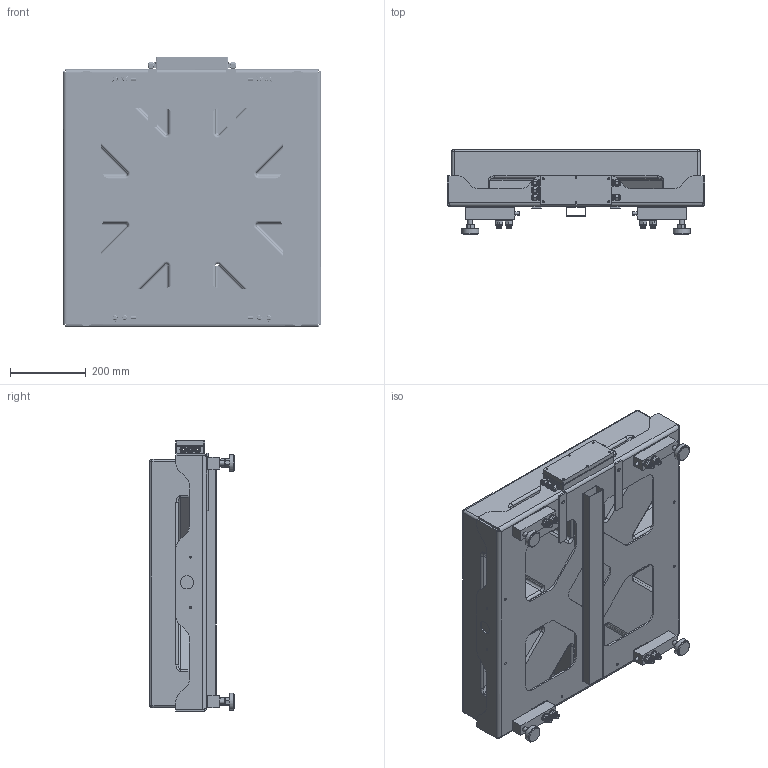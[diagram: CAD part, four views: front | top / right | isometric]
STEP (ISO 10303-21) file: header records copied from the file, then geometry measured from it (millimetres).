
FILE_DESCRIPTION (( 'STEP AP214' ), '1' );
FILE_NAME ('4042-26.STEP', '2022-01-07T17:55:42', ( '' ), ( '' ), 'SwSTEP 2.0', 'SolidWorks 2019', '' );
FILE_SCHEMA (( 'AUTOMOTIVE_DESIGN' ));
Length unit declared in the file: inch
Products named in the file (1): 4042-26
Bounding box: 682.62 x 224.45 x 716.15 mm (x, y, z)
Surface area: 3801550 mm2 (no closed solid volume)
Topology: 0 solids, 123 shells, 1254 faces, 5278 edges, 4060 vertices
Faces by surface type: plane 807, cylinder 282, cone 72, bspline 57, torus 20, sphere 16
Full cylindrical faces by diameter (mm): 5.105 x12, 6.629 x6, 6.731 x4, 7.938 x4, 9.525 x2, 12.268 x4, 12.667 x4, 15.85 x1, 20.65 x8, 34.925 x3, 35.052 x1, 37.973 x4, 44.45 x4
Entity records: 123232 total; most frequent: CARTESIAN_POINT 66162, DIRECTION 7707, ORIENTED_EDGE 7277, EDGE_CURVE 5104, VERTEX_POINT 3998, LINE 3593, VECTOR 3593, AXIS2_PLACEMENT_3D 2057
